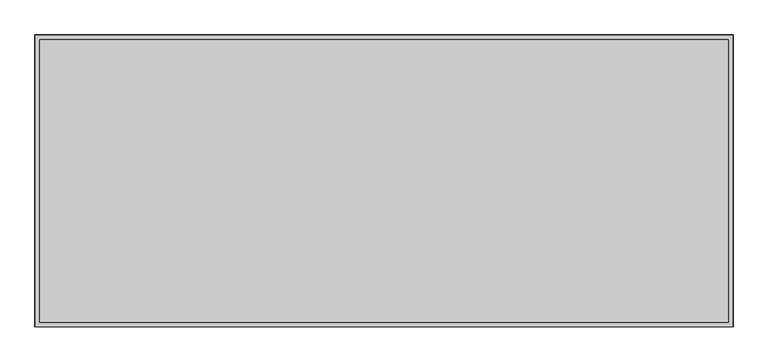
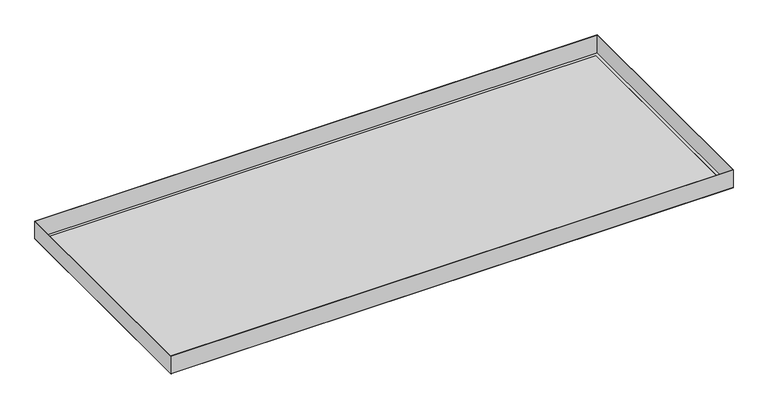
"""IFC4 building model written with IfcOpenShell, lengths in millimetres: proxy geometry, durlum_S4.7K_panel : durlum_S4.7_panel_wall_width_cut."""

from ifc_helpers import new_model, si_unit, frame, origin, origin_with_axes, place, context, project, spatial, polyline, outline, extrude, source, transform, mapped, element, save


def generic_models_2e6f3e4f(model_context):
    return source(origin(), model_context, "Body", "SweptSolid", [
        extrude(outline(polyline([(597.0, 249.75), (597.0, -249.75), (-597.0, -249.75), (-597.0, 249.75), (597.0, 249.75)]), holes=[polyline([(596.4, 249.15), (-596.4, 249.15), (-596.4, -249.15), (596.4, -249.15), (596.4, 249.15)])]), frame((0.0, 0.0, 0.6), z_axis=(0.0, 0.0, 1.0), x_axis=(1.0, 0.0, 0.0)), (0.0, 0.0, 1.0), 39.4),
        extrude(outline(polyline([(589.0, 241.75), (589.0, -241.75), (-589.0, -241.75), (-589.0, 241.75), (589.0, 241.75)])), frame((0.0, 0.0, 0.6), z_axis=(0.0, 0.0, 1.0), x_axis=(1.0, 0.0, 0.0)), (0.0, 0.0, 1.0), 0.6),
        extrude(outline(polyline([(597.0, 249.75), (597.0, -249.75), (-597.0, -249.75), (-597.0, 249.75), (597.0, 249.75)]), holes=[polyline([(589.0, 241.75), (-589.0, 241.75), (-589.0, -241.75), (589.0, -241.75), (589.0, 241.75)])]), origin_with_axes(), (0.0, 0.0, 1.0), 0.6),
        extrude(outline(polyline([(589.0, 241.75), (589.0, -241.75), (-589.0, -241.75), (-589.0, 241.75), (589.0, 241.75)])), origin_with_axes(), (0.0, 0.0, 1.0), 0.6),
    ])


if __name__ == "__main__":
    model = new_model("IFC4")
    model_context = context("Model", 3, world=origin())
    ifc_project = project(units=[si_unit("LENGTHUNIT", "METRE", prefix="MILLI")], contexts=[model_context])
    site = spatial("IfcSite", under=ifc_project)
    building = spatial("IfcBuilding", under=site)
    placement = place(None, origin())
    generic_models_shape = generic_models_2e6f3e4f(model_context)
    element("IfcBuildingElementProxy", 1, Name="durlum_S4.7K_panel : durlum_S4.7_panel_wall_width_cut", ObjectType="durlum_S4.7K_panel : durlum_S4.7_panel_wall_width_cut", at=placement, inside=building, context=model_context, shape_type="MappedRepresentation", body=[
        mapped(generic_models_shape, transform((0.0, 0.0, 0.0), x_axis=(1.0, 0.0, 0.0), y_axis=(0.0, 1.0, 0.0), z_axis=(0.0, 0.0, 1.0))),
    ])
    save(model, "model.ifc")
